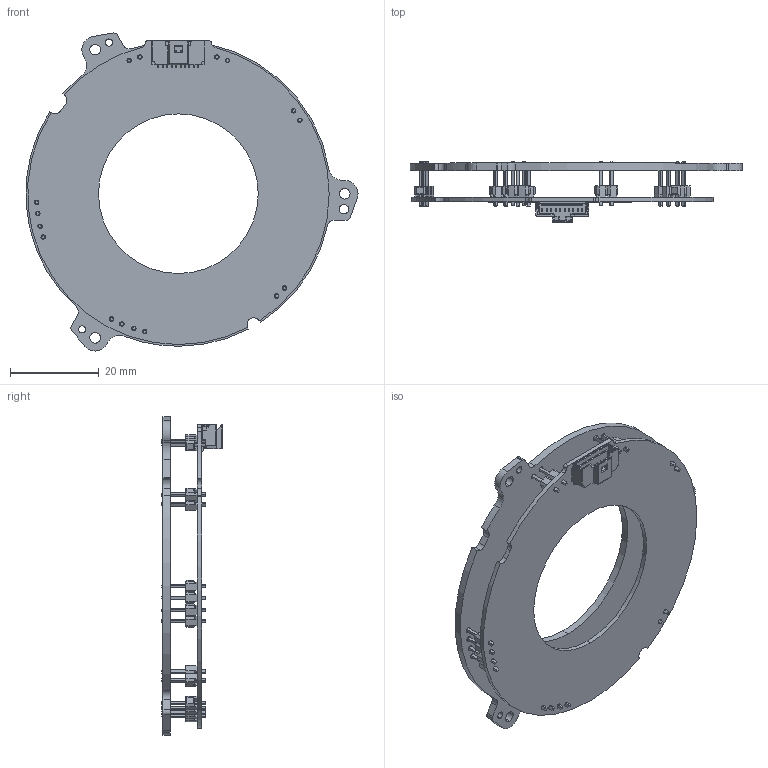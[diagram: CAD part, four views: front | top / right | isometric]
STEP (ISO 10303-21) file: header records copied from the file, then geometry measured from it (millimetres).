
FILE_DESCRIPTION (( 'STEP AP203' ), '1' );
FILE_NAME ('2422-114_Rev1-0-Stator-PR1.STEP', '2023-11-03T11:54:22', ( '' ), ( '' ), 'SwSTEP 2.0', 'SolidWorks 2022', '' );
FILE_SCHEMA (( 'CONFIG_CONTROL_DESIGN' ));
Length unit declared in the file: millimetre
Products named in the file (5): 4002-0016; 2422-114_Rev1-0-Stator-PR1; 4010-0020; 2422-104_Rev1-0; 2422-103_Rev1-0
Assembly tree (11 placements, depth 2):
  2422-114_Rev1-0-Stator-PR1
    2422-103_Rev1-0
    2422-104_Rev1-0
    4010-0020
    4002-0016  x8
Bounding box: 74.84 x 13.7 x 71.72 mm (x, y, z)
Volume: 7522.5 mm3; surface area: 13145.1 mm2
Topology: 27 solids, 27 shells, 1134 faces, 2964 edges, 1894 vertices
Faces by surface type: plane 938, cylinder 192, cone 4
Entity records: 19797 total; most frequent: CARTESIAN_POINT 3360, ORIENTED_EDGE 3296, DIRECTION 3227, EDGE_CURVE 1648, LINE 1255, VECTOR 1255, VERTEX_POINT 1082, AXIS2_PLACEMENT_3D 986
